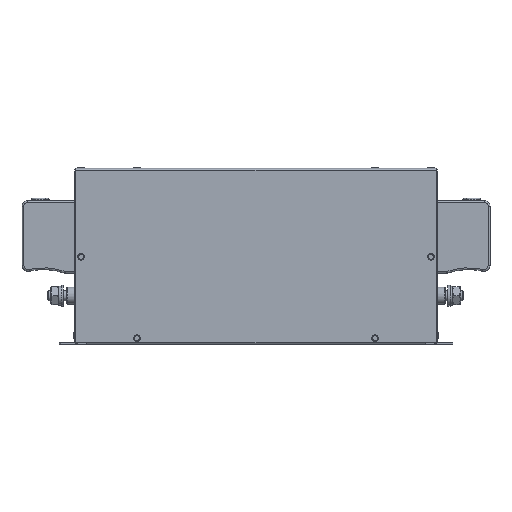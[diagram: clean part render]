
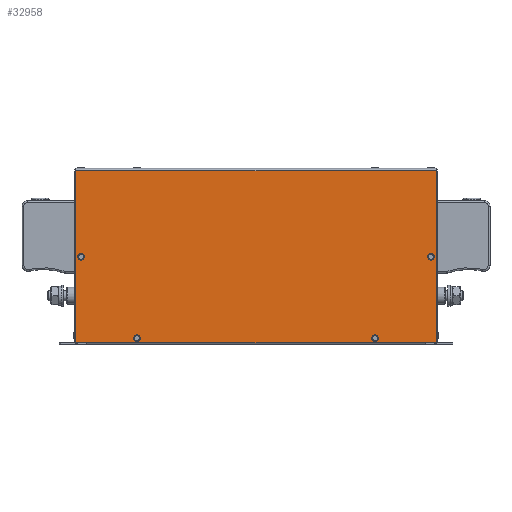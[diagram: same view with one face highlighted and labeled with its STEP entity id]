
A CAD part, front view. The second image highlights one B-rep face of the part: STEP entity #32958.
In plain terms, the highlighted planar face has unit normal (0, -1, 0).
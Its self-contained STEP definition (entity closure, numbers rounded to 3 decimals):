
#23436=CARTESIAN_POINT('',(-172.25,-120.,0.45));
#23437=VERTEX_POINT('',#23436);
#23438=CARTESIAN_POINT('',(-169.,-120.,0.45));
#23439=DIRECTION('',(0.,1.0,0.));
#23440=DIRECTION('',(-1.0,0.,0.));
#23441=AXIS2_PLACEMENT_3D('',#23438,#23439,#23440);
#23442=CIRCLE('',#23441,3.25);
#23443=EDGE_CURVE('',#23437,#23437,#23442,.T.);
#23620=CARTESIAN_POINT('',(-118.25,-120.,-78.25));
#23621=VERTEX_POINT('',#23620);
#23622=CARTESIAN_POINT('',(-115.,-120.,-78.25));
#23623=DIRECTION('',(0.,1.0,0.));
#23624=DIRECTION('',(-1.0,0.,0.));
#23625=AXIS2_PLACEMENT_3D('',#23622,#23623,#23624);
#23626=CIRCLE('',#23625,3.25);
#23627=EDGE_CURVE('',#23621,#23621,#23626,.T.);
#24356=CARTESIAN_POINT('',(165.75,-120.,0.45));
#24357=VERTEX_POINT('',#24356);
#24358=CARTESIAN_POINT('',(169.,-120.,0.45));
#24359=DIRECTION('',(0.,1.0,0.));
#24360=DIRECTION('',(-1.0,0.,0.));
#24361=AXIS2_PLACEMENT_3D('',#24358,#24359,#24360);
#24362=CIRCLE('',#24361,3.25);
#24363=EDGE_CURVE('',#24357,#24357,#24362,.T.);
#24540=CARTESIAN_POINT('',(111.75,-120.,-78.25));
#24541=VERTEX_POINT('',#24540);
#24542=CARTESIAN_POINT('',(115.,-120.,-78.25));
#24543=DIRECTION('',(0.,1.0,0.));
#24544=DIRECTION('',(-1.0,0.,0.));
#24545=AXIS2_PLACEMENT_3D('',#24542,#24543,#24544);
#24546=CIRCLE('',#24545,3.25);
#24547=EDGE_CURVE('',#24541,#24541,#24546,.T.);
#32457=CARTESIAN_POINT('',(-174.,-120.,-82.75));
#32458=VERTEX_POINT('',#32457);
#32465=CARTESIAN_POINT('',(-174.,-120.,83.45));
#32466=VERTEX_POINT('',#32465);
#32467=CARTESIAN_POINT('',(-174.,-120.,-82.75));
#32468=DIRECTION('',(0.0,0.0,1.0));
#32469=VECTOR('',#32468,166.2);
#32470=LINE('',#32467,#32469);
#32471=EDGE_CURVE('',#32458,#32466,#32470,.T.);
#32860=CARTESIAN_POINT('',(174.,-120.,83.45));
#32861=VERTEX_POINT('',#32860);
#32869=CARTESIAN_POINT('',(174.,-120.,-82.75));
#32870=VERTEX_POINT('',#32869);
#32871=CARTESIAN_POINT('',(174.,-120.,83.45));
#32872=DIRECTION('',(0.0,0.0,-1.0));
#32873=VECTOR('',#32872,166.2);
#32874=LINE('',#32871,#32873);
#32875=EDGE_CURVE('',#32861,#32870,#32874,.T.);
#32908=CARTESIAN_POINT('',(174.,-120.,83.45));
#32909=DIRECTION('',(-1.0,0.,0.0));
#32910=VECTOR('',#32909,348.0);
#32911=LINE('',#32908,#32910);
#32912=EDGE_CURVE('',#32861,#32466,#32911,.T.);
#32930=CARTESIAN_POINT('',(0.,-120.,1.5));
#32931=DIRECTION('',(0.,-1.0,0.));
#32932=DIRECTION('',(0.0,0.0,-1.0));
#32933=AXIS2_PLACEMENT_3D('',#32930,#32931,#32932);
#32934=PLANE('',#32933);
#32935=ORIENTED_EDGE('',*,*,#32912,.T.);
#32936=ORIENTED_EDGE('',*,*,#32471,.F.);
#32937=CARTESIAN_POINT('',(174.,-120.,-82.75));
#32938=DIRECTION('',(-1.0,0.,0.0));
#32939=VECTOR('',#32938,348.);
#32940=LINE('',#32937,#32939);
#32941=EDGE_CURVE('',#32870,#32458,#32940,.T.);
#32942=ORIENTED_EDGE('',*,*,#32941,.F.);
#32943=ORIENTED_EDGE('',*,*,#32875,.F.);
#32944=EDGE_LOOP('',(#32935,#32936,#32942,#32943));
#32945=FACE_OUTER_BOUND('',#32944,.T.);
#32946=ORIENTED_EDGE('',*,*,#23443,.T.);
#32947=EDGE_LOOP('',(#32946));
#32948=FACE_BOUND('',#32947,.T.);
#32949=ORIENTED_EDGE('',*,*,#23627,.T.);
#32950=EDGE_LOOP('',(#32949));
#32951=FACE_BOUND('',#32950,.T.);
#32952=ORIENTED_EDGE('',*,*,#24363,.T.);
#32953=EDGE_LOOP('',(#32952));
#32954=FACE_BOUND('',#32953,.T.);
#32955=ORIENTED_EDGE('',*,*,#24547,.T.);
#32956=EDGE_LOOP('',(#32955));
#32957=FACE_BOUND('',#32956,.T.);
#32958=ADVANCED_FACE('',(#32945,#32948,#32951,#32954,#32957),#32934,.T.);
